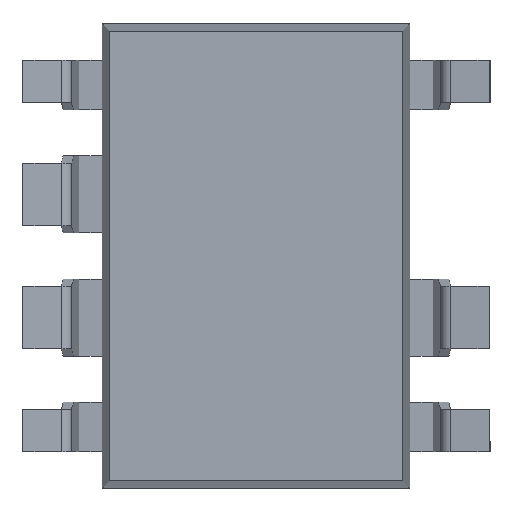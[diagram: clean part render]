
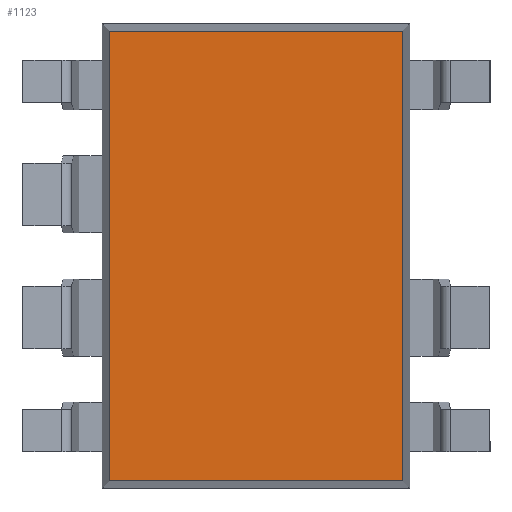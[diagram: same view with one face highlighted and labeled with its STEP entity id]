
A CAD part, front view. The second image highlights one B-rep face of the part: STEP entity #1123.
In plain terms, the highlighted planar face has unit normal (0, -1, 0).
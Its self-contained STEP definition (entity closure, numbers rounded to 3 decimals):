
#202 = CARTESIAN_POINT ( 'NONE',  ( -3.023, 0.3, 4.636 ) ) ;
#409 = EDGE_LOOP ( 'NONE', ( #2586, #442, #3797, #3573 ) ) ;
#441 = LINE ( 'NONE', #3335, #4053 ) ;
#442 = ORIENTED_EDGE ( 'NONE', *, *, #3454, .T. ) ;
#456 = PLANE ( 'NONE',  #545 ) ;
#480 = FACE_OUTER_BOUND ( 'NONE', #409, .T. ) ;
#545 = AXIS2_PLACEMENT_3D ( 'NONE', #1754, #2377, #3244 ) ;
#723 = VECTOR ( 'NONE', #2186, 1000. ) ;
#945 = EDGE_CURVE ( 'NONE', #1497, #2631, #1934, .T. ) ;
#992 = VERTEX_POINT ( 'NONE', #3828 ) ;
#1123 = ADVANCED_FACE ( 'NONE', ( #480 ), #456, .T. ) ;
#1126 = VERTEX_POINT ( 'NONE', #2642 ) ;
#1168 = CARTESIAN_POINT ( 'NONE',  ( -3.023, 0.3, -4.636 ) ) ;
#1266 = CARTESIAN_POINT ( 'NONE',  ( 3.023, 0.3, -4.788 ) ) ;
#1447 = DIRECTION ( 'NONE',  ( -1., 0., 0. ) ) ;
#1497 = VERTEX_POINT ( 'NONE', #202 ) ;
#1563 = CARTESIAN_POINT ( 'NONE',  ( -3.023, 0.3, 4.788 ) ) ;
#1611 = VECTOR ( 'NONE', #3514, 1000. ) ;
#1671 = DIRECTION ( 'NONE',  ( 1., 0., 0. ) ) ;
#1754 = CARTESIAN_POINT ( 'NONE',  ( 0., 0.3, 0. ) ) ;
#1934 = LINE ( 'NONE', #1563, #1611 ) ;
#1956 = VECTOR ( 'NONE', #1671, 1000. ) ;
#2046 = EDGE_CURVE ( 'NONE', #2631, #1126, #3561, .T. ) ;
#2186 = DIRECTION ( 'NONE',  ( 0., 0., 1. ) ) ;
#2377 = DIRECTION ( 'NONE',  ( 0., -1., 0. ) ) ;
#2586 = ORIENTED_EDGE ( 'NONE', *, *, #2046, .T. ) ;
#2631 = VERTEX_POINT ( 'NONE', #1168 ) ;
#2642 = CARTESIAN_POINT ( 'NONE',  ( 3.023, 0.3, -4.636 ) ) ;
#3244 = DIRECTION ( 'NONE',  ( 0., 0., -1. ) ) ;
#3335 = CARTESIAN_POINT ( 'NONE',  ( 3.175, 0.3, 4.636 ) ) ;
#3454 = EDGE_CURVE ( 'NONE', #1126, #992, #3765, .T. ) ;
#3514 = DIRECTION ( 'NONE',  ( 0., 0., -1. ) ) ;
#3561 = LINE ( 'NONE', #3852, #1956 ) ;
#3573 = ORIENTED_EDGE ( 'NONE', *, *, #945, .T. ) ;
#3765 = LINE ( 'NONE', #1266, #723 ) ;
#3797 = ORIENTED_EDGE ( 'NONE', *, *, #4097, .T. ) ;
#3828 = CARTESIAN_POINT ( 'NONE',  ( 3.023, 0.3, 4.636 ) ) ;
#3852 = CARTESIAN_POINT ( 'NONE',  ( -3.175, 0.3, -4.636 ) ) ;
#4053 = VECTOR ( 'NONE', #1447, 1000. ) ;
#4097 = EDGE_CURVE ( 'NONE', #992, #1497, #441, .T. ) ;
